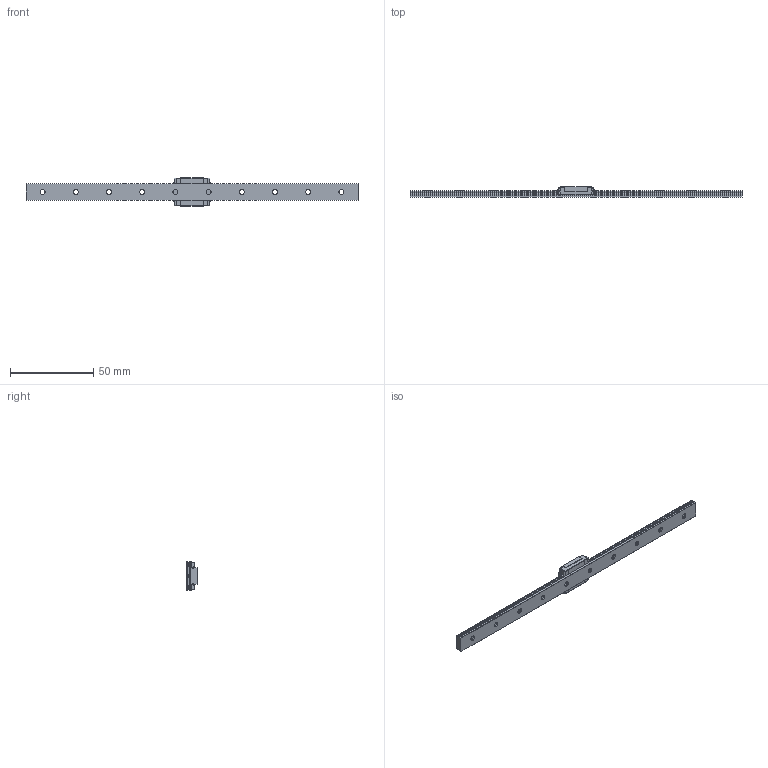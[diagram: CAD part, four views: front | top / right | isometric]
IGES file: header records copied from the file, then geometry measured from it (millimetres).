
Start section: Data from XPlus IGES,  Spatial Corp. Copyright (c) 1999-2004
Global section: file name: SRS5WM1UU200100 88.95000.igs; native system:  By Spatial Corp.; preprocessor: XPlus ACIS/IGES 3.0; author: Noname; organization: Noname; date: 20161110.141117; units: millimetre
Bounding box: 200 x 6.5 x 17 mm (x, y, z)
Surface area: 7279.4 mm2 (no closed solid volume)
Topology: 0 solids, 0 shells, 266 faces, 1444 edges, 1444 vertices
Faces by surface type: extrusion 164, revolution 102
